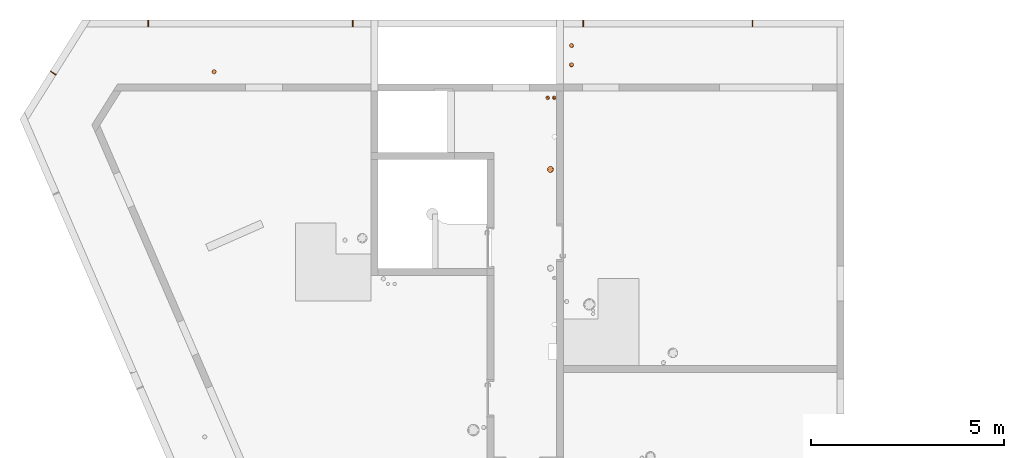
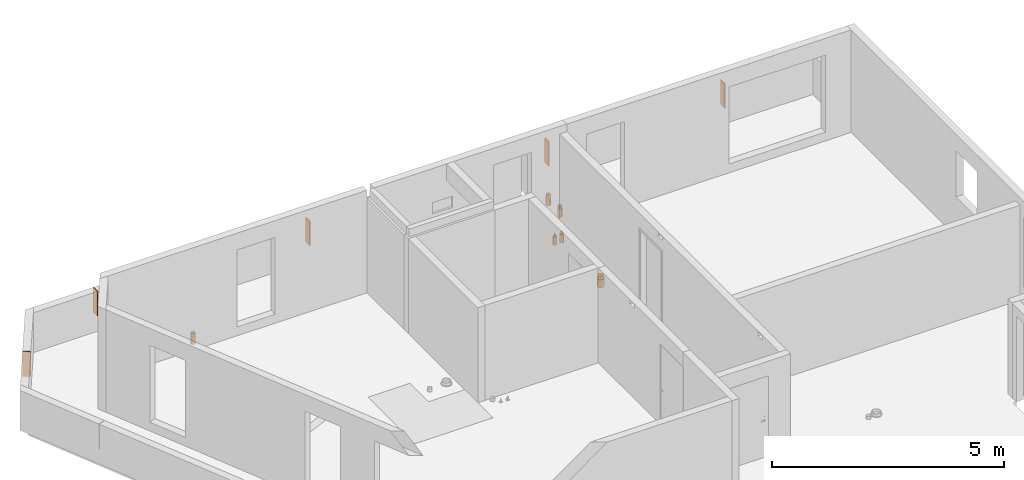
# One storey, part 22 of 28: 11 proxies.
"""IFC2X3 building model written with IfcOpenShell, lengths in centimetres."""

from ifc_helpers import new_model, entity, si_unit, converted_unit, derived_unit, direction, frame, frame_2d, origin, origin_2d_with_axis, place, context, subcontext, project, spatial, rectangle, circle, hollow_circle, extrude, source, transform, mapped, material, type_object, type_shapes, element, save


model = new_model("IFC2X3")

# Units and contexts
model_context = context("Model", 3, precision=0.001, world=origin(), true_north=direction((6.12303176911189e-17, 1.0)))
body_context = subcontext(model_context, "Body", "Model", "MODEL_VIEW")
ifc_project = project(units=[si_unit("LENGTHUNIT", "METRE", prefix="CENTI"), si_unit("AREAUNIT", "SQUARE_METRE"), si_unit("VOLUMEUNIT", "CUBIC_METRE"), converted_unit("PLANEANGLEUNIT", "DEGREE", entity("IfcRatioMeasure", 0.0174532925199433), si_unit("PLANEANGLEUNIT", "RADIAN"), dimensions=[0, 0, 0, 0, 0, 0, 0]), si_unit("MASSUNIT", "GRAM", prefix="KILO"), derived_unit("MASSDENSITYUNIT", [(si_unit("MASSUNIT", "GRAM", prefix="KILO"), 1), (si_unit("LENGTHUNIT", "METRE"), -3)]), si_unit("TIMEUNIT", "SECOND"), si_unit("FREQUENCYUNIT", "HERTZ"), si_unit("THERMODYNAMICTEMPERATUREUNIT", "DEGREE_CELSIUS"), derived_unit("THERMALTRANSMITTANCEUNIT", [(si_unit("MASSUNIT", "GRAM", prefix="KILO"), 1), (si_unit("THERMODYNAMICTEMPERATUREUNIT", "KELVIN"), -1), (si_unit("TIMEUNIT", "SECOND"), -3)]), derived_unit("VOLUMETRICFLOWRATEUNIT", [(si_unit("LENGTHUNIT", "METRE"), 3), (si_unit("TIMEUNIT", "SECOND"), -1)]), si_unit("ELECTRICCURRENTUNIT", "AMPERE"), si_unit("ELECTRICVOLTAGEUNIT", "VOLT"), si_unit("POWERUNIT", "WATT"), si_unit("FORCEUNIT", "NEWTON"), si_unit("ILLUMINANCEUNIT", "LUX"), si_unit("LUMINOUSFLUXUNIT", "LUMEN"), si_unit("LUMINOUSINTENSITYUNIT", "CANDELA"), derived_unit("USERDEFINED", [(si_unit("MASSUNIT", "GRAM", prefix="KILO"), -1), (si_unit("LENGTHUNIT", "METRE"), -2), (si_unit("TIMEUNIT", "SECOND"), 3), (si_unit("LUMINOUSFLUXUNIT", "LUMEN"), 1)]), derived_unit("LINEARVELOCITYUNIT", [(si_unit("LENGTHUNIT", "METRE"), 1), (si_unit("TIMEUNIT", "SECOND"), -1)]), si_unit("PRESSUREUNIT", "PASCAL"), derived_unit("USERDEFINED", [(si_unit("LENGTHUNIT", "METRE"), -2), (si_unit("MASSUNIT", "GRAM", prefix="KILO"), 1), (si_unit("TIMEUNIT", "SECOND"), -2)])], contexts=[model_context])

# Site, building, storey
site_placement = place(None, origin())
site = spatial("IfcSite", under=ifc_project, at=site_placement, Name="Default", CompositionType="ELEMENT")
building_placement = place(site_placement, origin())
building = spatial("IfcBuilding", under=site, at=building_placement, Name="CAGE 03", CompositionType="ELEMENT")
storey_placement = place(building_placement, frame((0.0, 0.0, 1420.0)))
storey = spatial("IfcBuildingStorey", under=building, at=storey_placement, Name="R+5", CompositionType="ELEMENT", Elevation=1420.0)

# Proxies
ifc_material_1 = material(Name="BBGO_Résa")
building_element_proxy_type_1 = type_object("IfcBuildingElementProxyType", Name="J.F.", PredefinedType="NOTDEFINED", material=ifc_material_1)
shared_shape_1 = source(origin(), body_context, "Body", "SweptSolid", [
    extrude(rectangle(XDim=1.99999999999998, YDim=18.0000000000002, at=frame_2d((-2.16493489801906e-13, -8.65973959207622e-13), x_axis=(1.0, 0.0))), frame((3078.36582014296, 5284.66066607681, 1460.0)), (0.0, 0.0, 1.0), 64.9999999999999),
])
type_shapes(building_element_proxy_type_1, [shared_shape_1])
proxy_1_placement = place(storey_placement, frame((0.0, 0.0, -1420.0)))
element("IfcBuildingElementProxy", 1, at=proxy_1_placement, inside=storey, type_object=building_element_proxy_type_1, material=ifc_material_1, Name="BBGO-Résa rect et circ:J.F.", ObjectType="J.F.", context=body_context, shape_type="MappedRepresentation", body=[
    mapped(shared_shape_1, transform((0.0, 0.0, 0.0), scale=1.0)),
])
building_element_proxy_type_2 = type_object("IfcBuildingElementProxyType", Name="J.F.", PredefinedType="NOTDEFINED", material=ifc_material_1)
shared_shape_2 = source(origin(), body_context, "Body", "SweptSolid", [
    extrude(rectangle(XDim=1.99999999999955, YDim=18.0000000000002, at=origin_2d_with_axis()), frame((4203.36582014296, 5284.66066607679, 1460.0)), (0.0, 0.0, 1.0), 64.9999999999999),
])
type_shapes(building_element_proxy_type_2, [shared_shape_2])
proxy_2_placement = place(storey_placement, frame((0.0, 0.0, -1420.0)))
element("IfcBuildingElementProxy", 2, at=proxy_2_placement, inside=storey, type_object=building_element_proxy_type_2, material=ifc_material_1, Name="BBGO-Résa rect et circ:J.F.", ObjectType="J.F.", context=body_context, shape_type="MappedRepresentation", body=[
    mapped(shared_shape_2, transform((0.0, 0.0, 0.0), scale=1.0)),
])
building_element_proxy_type_3 = type_object("IfcBuildingElementProxyType", Name="J.F.", PredefinedType="NOTDEFINED", material=ifc_material_1)
shared_shape_3 = source(origin(), body_context, "Body", "SweptSolid", [
    extrude(rectangle(XDim=1.99999999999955, YDim=18.0000000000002, at=origin_2d_with_axis()), frame((4641.36582014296, 5284.6606660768, 1460.0)), (0.0, 0.0, 1.0), 64.9999999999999),
])
type_shapes(building_element_proxy_type_3, [shared_shape_3])
proxy_3_placement = place(storey_placement, frame((0.0, 0.0, -1420.0)))
element("IfcBuildingElementProxy", 3, at=proxy_3_placement, inside=storey, type_object=building_element_proxy_type_3, material=ifc_material_1, Name="BBGO-Résa rect et circ:J.F.", ObjectType="J.F.", context=body_context, shape_type="MappedRepresentation", body=[
    mapped(shared_shape_3, transform((0.0, 0.0, 0.0), scale=1.0)),
])
ifc_material_2 = material(Name="Conduit EP")
building_element_proxy_type_4 = type_object("IfcBuildingElementProxyType", Name="EP 101", PredefinedType="NOTDEFINED", material=ifc_material_2)
shared_shape_4 = source(origin(), body_context, "Body", "SweptSolid", [
    extrude(circle(Radius=5.5, at=frame_2d((0.0, -8.88549515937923e-15), x_axis=(1.0, 0.0))), frame((0.0, 0.0, -21.0)), (0.0, 0.0, 1.0), 21.0),
    extrude(hollow_circle(Radius=5.0, WallThickness=0.25, at=frame_2d((0.0, -8.07772287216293e-15), x_axis=(1.0, 0.0))), frame((0.0, 0.0, -21.0)), (0.0, 0.0, 1.0), 28.5),
])
type_shapes(building_element_proxy_type_4, [shared_shape_4])
for number, where, name in (
    (4, (3249.08785498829, 5159.70173105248, 0.0), "Galette - Résa - PVC4:EP 101"),
    (5, (4173.3707154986, 5227.6606660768, 0.0), "Galette - Résa - PVC4:EP 101"),
    (6, (4173.37072392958, 5177.66066607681, 0.0), "Galette - Résa - PVC4:EP 101"),
):
    element("IfcBuildingElementProxy", number, at=place(storey_placement, frame(where)), inside=storey, type_object=building_element_proxy_type_4, material=ifc_material_2, Name=name, ObjectType="EP 101", context=body_context, shape_type="MappedRepresentation", body=[
        mapped(shared_shape_4, transform((0.0, 0.0, 0.0), scale=1.0)),
    ])
building_element_proxy_type_5 = type_object("IfcBuildingElementProxyType", Name="EP 141", PredefinedType="NOTDEFINED", material=ifc_material_2)
shared_shape_5 = source(origin(), body_context, "Body", "SweptSolid", [
    extrude(circle(Radius=8.0, at=frame_2d((0.0, -1.29243565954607e-14), x_axis=(1.0, 0.0))), frame((0.0, 0.0, -21.0)), (0.0, 0.0, 1.0), 21.0),
    extrude(hollow_circle(Radius=7.0, WallThickness=0.25, at=frame_2d((0.0, -1.13088120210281e-14), x_axis=(1.0, 0.0))), frame((0.0, 0.0, -21.0)), (0.0, 0.0, 1.0), 28.5),
])
type_shapes(building_element_proxy_type_5, [shared_shape_5])
proxy_4_placement = place(storey_placement, frame((4118.73556432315, 4907.15627952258, 0.0)))
element("IfcBuildingElementProxy", 7, at=proxy_4_placement, inside=storey, type_object=building_element_proxy_type_5, material=ifc_material_2, Name="Galette - Résa - PVC4:EP 141", ObjectType="EP 141", context=body_context, shape_type="MappedRepresentation", body=[
    mapped(shared_shape_5, transform((0.0, 0.0, 0.0), scale=1.0)),
])
ifc_material_3 = material(Name="Circuit CHF Aller")
building_element_proxy_type_6 = type_object("IfcBuildingElementProxyType", Name="CHF Aller 41", PredefinedType="NOTDEFINED", material=ifc_material_3)
shared_shape_6 = source(origin(), body_context, "Body", "SweptSolid", [
    extrude(circle(Radius=5.0, at=frame_2d((0.0, -8.07772287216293e-15), x_axis=(1.0, 0.0))), frame((0.0, 0.0, -21.0)), (0.0, 0.0, 1.0), 21.0),
    extrude(hollow_circle(Radius=2.0, WallThickness=0.4, at=frame_2d((0.0, -3.23108914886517e-15), x_axis=(1.0, 0.0))), frame((0.0, 0.0, -21.0)), (0.0, 0.0, 1.0), 28.5),
])
type_shapes(building_element_proxy_type_6, [shared_shape_6])
proxy_5_placement = place(storey_placement, frame((4111.59705654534, 5092.36066607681, 0.0)))
element("IfcBuildingElementProxy", 8, at=proxy_5_placement, inside=storey, type_object=building_element_proxy_type_6, material=ifc_material_3, Name="Galette - Résa - PVC4:CHF Aller 41", ObjectType="CHF Aller 41", context=body_context, shape_type="MappedRepresentation", body=[
    mapped(shared_shape_6, transform((0.0, 0.0, 0.0), scale=1.0)),
])
ifc_material_4 = material(Name="Circuit CHF Retour")
building_element_proxy_type_7 = type_object("IfcBuildingElementProxyType", Name="CHF Retour 43", PredefinedType="NOTDEFINED", material=ifc_material_4)
shared_shape_7 = source(origin(), body_context, "Body", "SweptSolid", [
    extrude(circle(Radius=5.0, at=frame_2d((0.0, -8.07772287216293e-15), x_axis=(1.0, 0.0))), frame((0.0, 0.0, -21.0)), (0.0, 0.0, 1.0), 21.0),
    extrude(hollow_circle(Radius=2.0, WallThickness=0.4, at=frame_2d((0.0, -3.23108914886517e-15), x_axis=(1.0, 0.0))), frame((0.0, 0.0, -21.0)), (0.0, 0.0, 1.0), 28.5),
])
type_shapes(building_element_proxy_type_7, [shared_shape_7])
proxy_6_placement = place(storey_placement, frame((4128.59705654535, 5092.36066607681, 0.0)))
element("IfcBuildingElementProxy", 9, at=proxy_6_placement, inside=storey, type_object=building_element_proxy_type_7, material=ifc_material_4, Name="Galette - Résa - PVC4:CHF Retour 43", ObjectType="CHF Retour 43", context=body_context, shape_type="MappedRepresentation", body=[
    mapped(shared_shape_7, transform((0.0, 0.0, 0.0), scale=1.0)),
])
building_element_proxy_type_8 = type_object("IfcBuildingElementProxyType", Name="J.F.", PredefinedType="NOTDEFINED", material=ifc_material_1)
shared_shape_8 = source(origin(), body_context, "Body", "SweptSolid", [
    extrude(rectangle(XDim=2.00000000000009, YDim=17.9999999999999, at=frame_2d((-3.67206265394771e-13, -2.30038210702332e-13), x_axis=(1.0, 0.0))), frame((2832.8674972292, 5156.6853385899, 1460.0), z_axis=(0.0, 0.0, 1.0), x_axis=(-0.531791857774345, -0.846875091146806, 0.0)), (0.0, 0.0, 1.0), 64.9999999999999),
])
type_shapes(building_element_proxy_type_8, [shared_shape_8])
proxy_7_placement = place(storey_placement, frame((0.0, 0.0, -1420.0)))
element("IfcBuildingElementProxy", 10, at=proxy_7_placement, inside=storey, type_object=building_element_proxy_type_8, material=ifc_material_1, Name="BBGO-Résa rect et circ:J.F.", ObjectType="J.F.", context=body_context, shape_type="MappedRepresentation", body=[
    mapped(shared_shape_8, transform((0.0, 0.0, 0.0), scale=1.0)),
])
building_element_proxy_type_9 = type_object("IfcBuildingElementProxyType", Name="J.F.", PredefinedType="NOTDEFINED", material=ifc_material_1)
shared_shape_9 = source(origin(), body_context, "Body", "SweptSolid", [
    extrude(rectangle(XDim=1.99999999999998, YDim=18.0000000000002, at=frame_2d((-2.16493489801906e-13, 0.0), x_axis=(1.0, 0.0))), frame((3607.36582014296, 5284.66066607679, 1460.0)), (0.0, 0.0, 1.0), 64.9999999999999),
])
type_shapes(building_element_proxy_type_9, [shared_shape_9])
proxy_8_placement = place(storey_placement, frame((0.0, 0.0, -1420.0)))
element("IfcBuildingElementProxy", 11, at=proxy_8_placement, inside=storey, type_object=building_element_proxy_type_9, material=ifc_material_1, Name="BBGO-Résa rect et circ:J.F.", ObjectType="J.F.", context=body_context, shape_type="MappedRepresentation", body=[
    mapped(shared_shape_9, transform((0.0, 0.0, 0.0), scale=1.0)),
])

save(model, "model.ifc")
